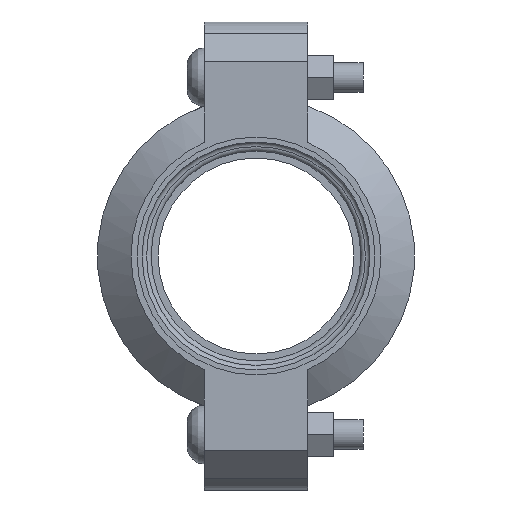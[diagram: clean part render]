
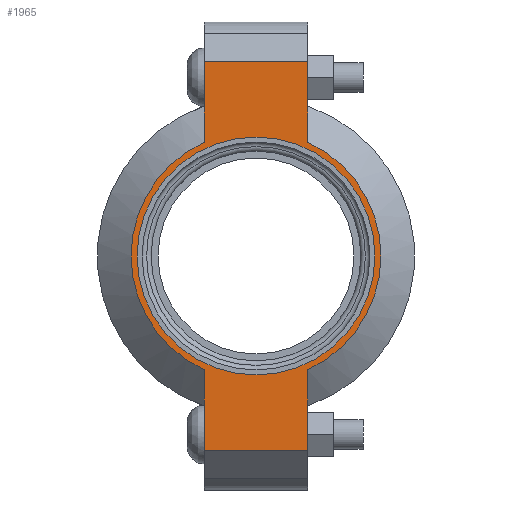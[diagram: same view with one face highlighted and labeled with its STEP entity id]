
A CAD part, left-side view. The second image highlights one B-rep face of the part: STEP entity #1965.
In plain terms, the highlighted planar face has unit normal (-1, 0, 0) as drawn and (0, 0, 1) by its records, which use the part's own axes.
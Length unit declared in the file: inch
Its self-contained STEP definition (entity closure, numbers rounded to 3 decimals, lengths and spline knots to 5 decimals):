
#136=LINE('',#3497,#235);
#149=LINE('',#3541,#248);
#154=LINE('',#3565,#253);
#161=LINE('',#3583,#260);
#168=LINE('',#3608,#267);
#169=LINE('',#3611,#268);
#235=VECTOR('',#2827,0.3937);
#248=VECTOR('',#2856,0.3937);
#253=VECTOR('',#2867,0.3937);
#260=VECTOR('',#2884,0.3937);
#267=VECTOR('',#2905,0.3937);
#268=VECTOR('',#2910,0.3937);
#320=FACE_BOUND('',#570,.T.);
#364=PLANE('',#2306);
#453=FACE_OUTER_BOUND('',#569,.T.);
#569=EDGE_LOOP('',(#1700,#1701,#1702,#1703,#1704,#1705,#1706,#1707));
#570=EDGE_LOOP('',(#1708));
#741=CIRCLE('',#2307,1.575);
#742=CIRCLE('',#2308,1.575);
#743=CIRCLE('',#2309,1.5);
#903=VERTEX_POINT('',#3492);
#904=VERTEX_POINT('',#3496);
#920=VERTEX_POINT('',#3538);
#921=VERTEX_POINT('',#3540);
#927=VERTEX_POINT('',#3560);
#928=VERTEX_POINT('',#3564);
#933=VERTEX_POINT('',#3580);
#934=VERTEX_POINT('',#3582);
#940=VERTEX_POINT('',#3613);
#1151=EDGE_CURVE('',#904,#903,#136,.T.);
#1171=EDGE_CURVE('',#921,#920,#149,.T.);
#1180=EDGE_CURVE('',#928,#927,#154,.T.);
#1189=EDGE_CURVE('',#934,#933,#161,.T.);
#1201=EDGE_CURVE('',#928,#920,#168,.T.);
#1202=EDGE_CURVE('',#927,#934,#741,.T.);
#1203=EDGE_CURVE('',#904,#933,#169,.T.);
#1204=EDGE_CURVE('',#903,#921,#742,.T.);
#1205=EDGE_CURVE('',#940,#940,#743,.T.);
#1700=ORIENTED_EDGE('',*,*,#1201,.F.);
#1701=ORIENTED_EDGE('',*,*,#1180,.T.);
#1702=ORIENTED_EDGE('',*,*,#1202,.T.);
#1703=ORIENTED_EDGE('',*,*,#1189,.T.);
#1704=ORIENTED_EDGE('',*,*,#1203,.F.);
#1705=ORIENTED_EDGE('',*,*,#1151,.T.);
#1706=ORIENTED_EDGE('',*,*,#1204,.T.);
#1707=ORIENTED_EDGE('',*,*,#1171,.T.);
#1708=ORIENTED_EDGE('',*,*,#1205,.T.);
#1965=ADVANCED_FACE('',(#453,#320),#364,.T.);
#2306=AXIS2_PLACEMENT_3D('',#3609,#2906,#2907);
#2307=AXIS2_PLACEMENT_3D('',#3610,#2908,#2909);
#2308=AXIS2_PLACEMENT_3D('',#3612,#2911,#2912);
#2309=AXIS2_PLACEMENT_3D('',#3614,#2913,#2914);
#2827=DIRECTION('',(1.,0.,0.));
#2856=DIRECTION('',(1.,0.,0.));
#2867=DIRECTION('',(-1.,0.,0.));
#2884=DIRECTION('',(-1.,0.,0.));
#2905=DIRECTION('',(0.,-1.,0.));
#2906=DIRECTION('center_axis',(0.,0.,1.));
#2907=DIRECTION('ref_axis',(-1.,0.,0.));
#2908=DIRECTION('center_axis',(0.,0.,1.));
#2909=DIRECTION('ref_axis',(1.,0.,0.));
#2910=DIRECTION('',(0.,1.,0.));
#2911=DIRECTION('center_axis',(0.,0.,1.));
#2912=DIRECTION('ref_axis',(1.,0.,0.));
#2913=DIRECTION('center_axis',(0.,0.,-1.));
#2914=DIRECTION('ref_axis',(1.,0.,0.));
#3492=CARTESIAN_POINT('',(-1.43462,-0.65,0.94));
#3496=CARTESIAN_POINT('',(-2.45,-0.65,0.94));
#3497=CARTESIAN_POINT('',(2.95,-0.65,0.94));
#3538=CARTESIAN_POINT('',(2.45,-0.65,0.94));
#3540=CARTESIAN_POINT('',(1.43462,-0.65,0.94));
#3541=CARTESIAN_POINT('',(2.95,-0.65,0.94));
#3560=CARTESIAN_POINT('',(1.43462,0.65,0.94));
#3564=CARTESIAN_POINT('',(2.45,0.65,0.94));
#3565=CARTESIAN_POINT('',(-2.95,0.65,0.94));
#3580=CARTESIAN_POINT('',(-2.45,0.65,0.94));
#3582=CARTESIAN_POINT('',(-1.43462,0.65,0.94));
#3583=CARTESIAN_POINT('',(-2.95,0.65,0.94));
#3608=CARTESIAN_POINT('',(2.45,-0.325,0.94));
#3609=CARTESIAN_POINT('Origin',(0.,0.,
0.94));
#3610=CARTESIAN_POINT('Origin',(0.,0.,0.94));
#3611=CARTESIAN_POINT('',(-2.45,0.325,0.94));
#3612=CARTESIAN_POINT('Origin',(0.,0.,0.94));
#3613=CARTESIAN_POINT('',(-1.5,0.,0.94));
#3614=CARTESIAN_POINT('Origin',(0.,0.,0.94));
